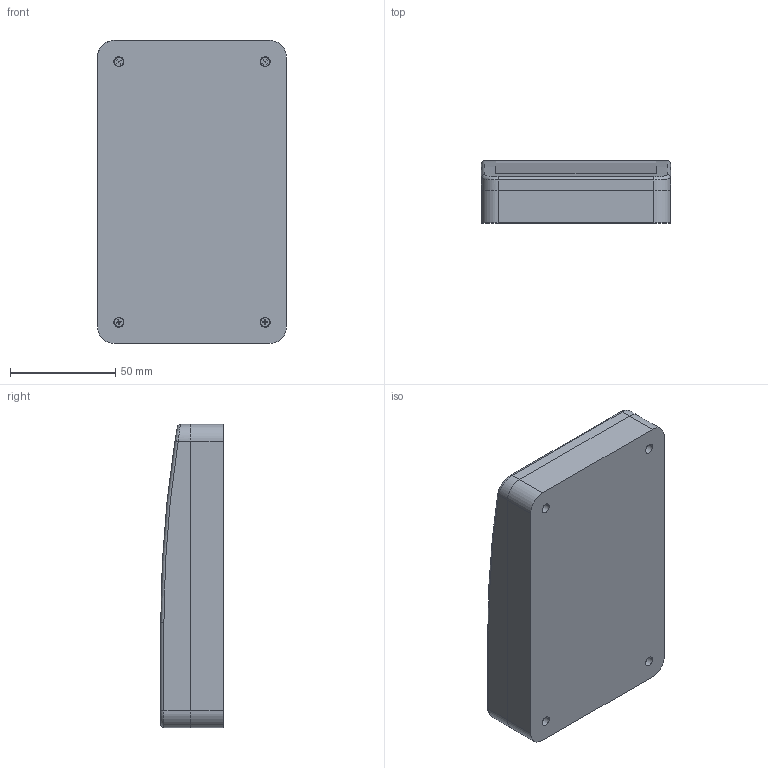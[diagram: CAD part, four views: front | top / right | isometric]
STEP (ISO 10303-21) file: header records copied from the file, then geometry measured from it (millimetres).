
FILE_DESCRIPTION (( 'STEP AP214' ), '1' );
FILE_NAME ('Conjunt PP81.STEP', '2018-01-19T09:40:02', ( 'aaa' ), ( '' ), 'SwSTEP 2.0', 'SolidWorks 2013', '' );
FILE_SCHEMA (( 'AUTOMOTIVE_DESIGN' ));
Length unit declared in the file: millimetre
Products named in the file (5): Cargol 2,2x6,5  PP81; Cargol 2,2x13 PP81; Tapa PP81; Cos PP81; Conjunt PP81
Assembly tree (10 placements, depth 2):
  Conjunt PP81
    Cos PP81
    Tapa PP81
    Cargol 2,2x13 PP81  x4
    Cargol 2,2x6,5  PP81  x4
Bounding box: 89.8 x 29.7 x 144 mm (x, y, z)
Volume: 104643.7 mm3; surface area: 79189.3 mm2
Topology: 10 solids, 10 shells, 859 faces, 1862 edges, 1046 vertices
Faces by surface type: cone 552, plane 188, cylinder 113, torus 4, bspline 2
Entity records: 10226 total; most frequent: CARTESIAN_POINT 1943, DIRECTION 1826, ORIENTED_EDGE 1580, EDGE_CURVE 790, AXIS2_PLACEMENT_3D 702, VERTEX_POINT 476, LINE 422, VECTOR 422
